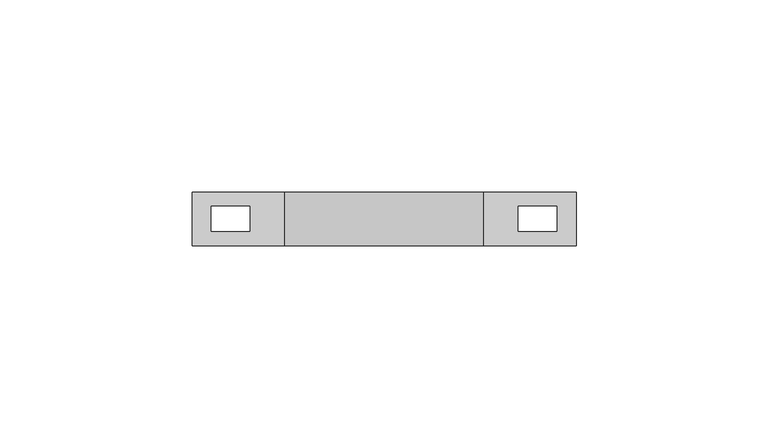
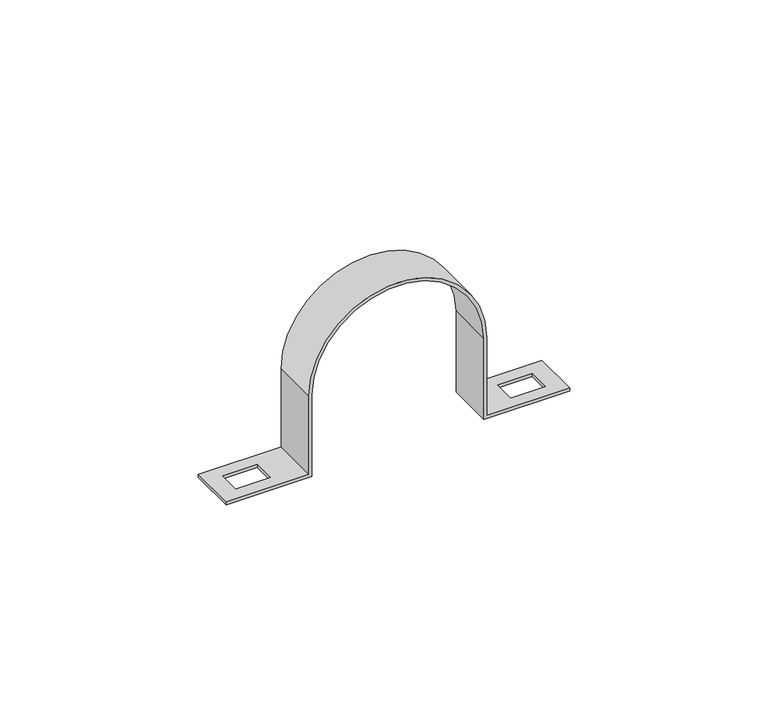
"""IFC4 building model written with IfcOpenShell, lengths in millimetres: cable carrier fitting geometry, КНС_ДержательОцинкованныйДвусторонний_DKC : д.48 - 50мм."""

from ifc_helpers import new_model, si_unit, frame, origin, place, context, project, spatial, polyline, circle_curve, source, transform, mapped, element, save
from ifc_brep_helpers import plane_surface, cylinder_surface, revolved_surface, advanced_brep


def cable_carrier_fitting_90186b1b(model_context):
    return source(origin(), model_context, "Body", "AdvancedBrep", [
        advanced_brep(
        [(50.0, -7.0, 0.0), (50.0, -7.0, 0.9), (25.9, -7.0, 0.9), (25.9, -7.0, 25.0), (-25.9, -7.0, 25.0), (-25.9, -7.0, 0.9), (-50.0, -7.0, 0.9), (-50.0, -7.0, 0.0), (-25.0, -7.0, 0.0), (-25.0, -7.0, 25.0), (25.0, -7.0, 25.0), (25.0, -7.0, 0.0), (50.0, 7.0, 0.0), (25.0, 7.0, 0.0), (25.0, 7.0, 25.0), (-25.0, 7.0, 25.0), (-25.0, 7.0, 0.0), (-50.0, 7.0, 0.0), (-50.0, 7.0, 0.9), (-25.9, 7.0, 0.9), (-25.9, 7.0, 25.0), (25.9, 7.0, 25.0), (25.9, 7.0, 0.9), (50.0, 7.0, 0.9), (45.0, -3.25, 0.9), (35.0, -3.25, 0.9), (35.0, 3.25, 0.9), (45.0, 3.25, 0.9), (-45.0, 3.25, 0.9), (-35.0, 3.25, 0.9), (-35.0, -3.25, 0.9), (-45.0, -3.25, 0.9), (-35.0, 3.25, 0.0), (-45.0, 3.25, 0.0), (-45.0, -3.25, 0.0), (-35.0, -3.25, 0.0), (35.0, -3.25, 0.0), (45.0, -3.25, 0.0), (45.0, 3.25, 0.0), (35.0, 3.25, 0.0)],
        [
            (0, 1),
            (1, 2),
            (2, 3),
            (3, 4, circle_curve(frame((0.0, -7.0, 25.0), z_axis=(0.0, -1.0, 0.0), x_axis=(1.0, 0.0, 0.0)), 25.9)),
            (4, 5),
            (5, 6),
            (6, 7),
            (7, 8),
            (8, 9),
            (9, 10, circle_curve(frame((0.0, -7.0, 25.0), z_axis=(0.0, 1.0, 0.0), x_axis=(1.0, 0.0, 0.0)), 25.0)),
            (10, 11),
            (11, 0),
            (12, 13),
            (13, 14),
            (14, 15, circle_curve(frame((0.0, 7.0, 25.0), z_axis=(0.0, -1.0, 0.0), x_axis=(1.0, 0.0, 0.0)), 25.0)),
            (15, 16),
            (16, 17),
            (17, 18),
            (18, 19),
            (19, 20),
            (20, 21, circle_curve(frame((0.0, 7.0, 25.0), z_axis=(0.0, 1.0, 0.0), x_axis=(1.0, 0.0, 0.0)), 25.9)),
            (21, 22),
            (22, 23),
            (23, 12),
            (0, 12),
            (23, 1),
            (22, 2),
            (24, 25),
            (25, 26),
            (26, 27),
            (27, 24),
            (21, 3),
            (20, 4),
            (19, 5),
            (18, 6),
            (28, 29),
            (29, 30),
            (30, 31),
            (31, 28),
            (17, 7),
            (16, 8),
            (32, 33),
            (33, 34),
            (34, 35),
            (35, 32),
            (15, 9),
            (14, 10),
            (13, 11),
            (36, 37),
            (37, 38),
            (38, 39),
            (39, 36),
            (32, 29),
            (28, 33),
            (31, 34),
            (30, 35),
            (36, 25),
            (24, 37),
            (27, 38),
            (26, 39),
        ],
        [
            plane_surface(frame((50.0, -7.0, 0.9), z_axis=(0.0, -1.0, 0.0), x_axis=(0.0, 0.0, 1.0))),
            plane_surface(frame((50.0, 7.0, 0.9), z_axis=(0.0, 1.0, 0.0), x_axis=(0.0, 0.0, -1.0))),
            plane_surface(frame((50.0, -7.0, 0.0), z_axis=(1.0, 0.0, 0.0), x_axis=(0.0, 1.0, 0.0))),
            plane_surface(frame((50.0, -7.0, 0.9), z_axis=(0.0, 0.0, 1.0), x_axis=(0.0, 1.0, 0.0))),
            plane_surface(frame((25.9, -7.0, 0.9), z_axis=(1.0, 0.0, 0.0), x_axis=(0.0, 1.0, 0.0))),
            cylinder_surface(frame((0.0, 7.0, 25.0), z_axis=(0.0, -1.0, 0.0), x_axis=(1.0, 0.0, 0.0)), 25.9),
            plane_surface(frame((-25.9, -7.0, 25.0), z_axis=(-1.0, 0.0, 0.0), x_axis=(0.0, 1.0, 0.0))),
            plane_surface(frame((-25.9, -7.0, 0.9), z_axis=(0.0, 0.0, 1.0), x_axis=(0.0, 1.0, 0.0))),
            plane_surface(frame((-50.0, -7.0, 0.9), z_axis=(-1.0, 0.0, 0.0), x_axis=(0.0, 1.0, 0.0))),
            plane_surface(frame((-50.0, -7.0, 0.0), z_axis=(0.0, 0.0, -1.0), x_axis=(0.0, 1.0, 0.0))),
            plane_surface(frame((-25.0, -7.0, 0.0), z_axis=(1.0, 0.0, 0.0), x_axis=(0.0, 1.0, 0.0))),
            revolved_surface(polyline([(25.0, 7.0, 25.0), (25.0, -7.0, 25.0)]), (0.0, 7.0, 25.0), (0.0, 1.0, 0.0)),
            plane_surface(frame((25.0, -7.0, 25.0), z_axis=(-1.0, 0.0, 0.0), x_axis=(0.0, 1.0, 0.0))),
            plane_surface(frame((25.0, -7.0, 0.0), z_axis=(0.0, 0.0, -1.0), x_axis=(0.0, 1.0, 0.0))),
            plane_surface(frame((-35.0, 3.25, 21.959409), z_axis=(0.0, -1.0, 0.0), x_axis=(0.0, 0.0, -1.0))),
            plane_surface(frame((-45.0, 3.25, 21.959409), z_axis=(1.0, 0.0, 0.0), x_axis=(0.0, 0.0, -1.0))),
            plane_surface(frame((-45.0, -3.25, 21.959409), z_axis=(0.0, 1.0, 0.0), x_axis=(0.0, 0.0, -1.0))),
            plane_surface(frame((-35.0, -3.25, 21.959409), z_axis=(-1.0, 0.0, 0.0), x_axis=(0.0, 0.0, -1.0))),
            plane_surface(frame((35.0, -3.25, 21.959409), z_axis=(0.0, 1.0, 0.0), x_axis=(0.0, 0.0, -1.0))),
            plane_surface(frame((45.0, -3.25, 21.959409), z_axis=(-1.0, 0.0, 0.0), x_axis=(0.0, 0.0, -1.0))),
            plane_surface(frame((45.0, 3.25, 21.959409), z_axis=(0.0, -1.0, 0.0), x_axis=(0.0, 0.0, -1.0))),
            plane_surface(frame((35.0, 3.25, 21.959409), z_axis=(1.0, 0.0, 0.0), x_axis=(0.0, 0.0, -1.0))),
        ],
        [
            (0, [[1, 2, 3, 4, 5, 6, 7, 8, 9, 10, 11, 12]]),
            (1, [[13, 14, 15, 16, 17, 18, 19, 20, 21, 22, 23, 24]]),
            (2, [[-1, 25, -24, 26]]),
            (3, [[-2, -26, -23, 27], [28, 29, 30, 31]]),
            (4, [[-3, -27, -22, 32]]),
            (5, [[-4, -32, -21, 33]]),
            (6, [[-5, -33, -20, 34]]),
            (7, [[-6, -34, -19, 35], [36, 37, 38, 39]]),
            (8, [[-7, -35, -18, 40]]),
            (9, [[-8, -40, -17, 41], [42, 43, 44, 45]]),
            (10, [[-9, -41, -16, 46]]),
            (11, [[-10, -46, -15, 47]]),
            (12, [[-11, -47, -14, 48]]),
            (13, [[-12, -48, -13, -25], [49, 50, 51, 52]]),
            (14, [[53, -36, 54, -42]]),
            (15, [[-54, -39, 55, -43]]),
            (16, [[-55, -38, 56, -44]]),
            (17, [[-53, -45, -56, -37]]),
            (18, [[57, -28, 58, -49]]),
            (19, [[-58, -31, 59, -50]]),
            (20, [[-59, -30, 60, -51]]),
            (21, [[-57, -52, -60, -29]]),
        ],
    ),
    ])


if __name__ == "__main__":
    model = new_model("IFC4")
    model_context = context("Model", 3, world=origin())
    ifc_project = project(units=[si_unit("LENGTHUNIT", "METRE", prefix="MILLI")], contexts=[model_context])
    site = spatial("IfcSite", under=ifc_project)
    building = spatial("IfcBuilding", under=site)
    placement = place(None, origin())
    cable_carrier_fitting_shape = cable_carrier_fitting_90186b1b(model_context)
    element("IfcCableCarrierFitting", 1, ObjectType="КНС_ДержательОцинкованныйДвусторонний_DKC : д.48 - 50мм", at=placement, inside=building, context=model_context, shape_type="MappedRepresentation", body=[
        mapped(cable_carrier_fitting_shape, transform((0.0, 0.0, 0.0), x_axis=(1.0, 0.0, 0.0), y_axis=(0.0, 1.0, 0.0), z_axis=(0.0, 0.0, 1.0))),
    ])
    save(model, "model.ifc")
